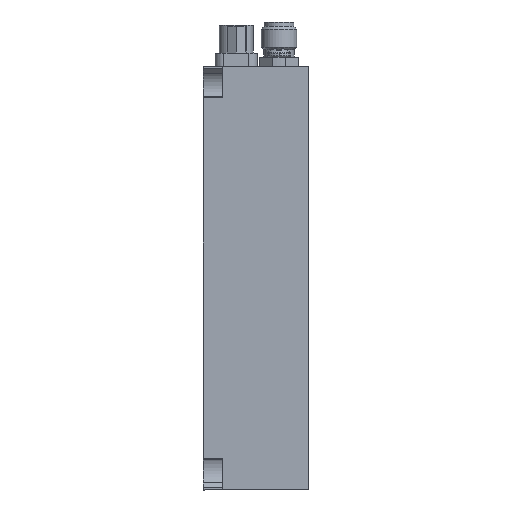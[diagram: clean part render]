
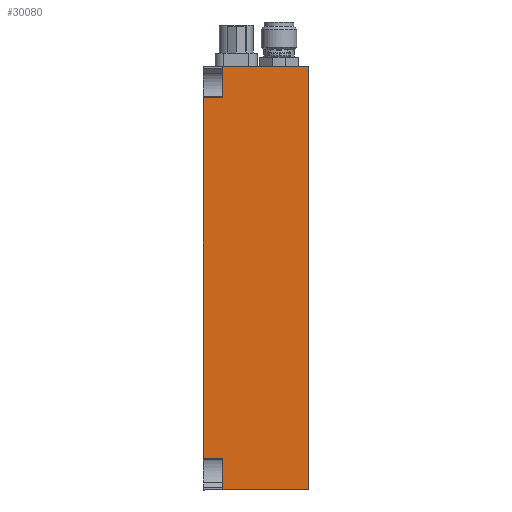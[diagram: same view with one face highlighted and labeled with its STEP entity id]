
A CAD part, left-side view. The second image highlights one B-rep face of the part: STEP entity #30080.
In plain terms, the highlighted planar face has unit normal (-1, 0, 0).
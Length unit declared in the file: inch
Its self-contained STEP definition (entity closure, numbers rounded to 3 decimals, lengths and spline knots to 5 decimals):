
#202 = EDGE_CURVE ( 'NONE', #1535, #6494, #10780, .T. ) ;
#804 = VECTOR ( 'NONE', #7736, 39.37008 ) ;
#1304 = ORIENTED_EDGE ( 'NONE', *, *, #23875, .F. ) ;
#1535 = VERTEX_POINT ( 'NONE', #8529 ) ;
#2229 = CARTESIAN_POINT ( 'NONE',  ( -0.21071, 2.15151, 0.70477 ) ) ;
#2556 = VERTEX_POINT ( 'NONE', #7744 ) ;
#2658 = ORIENTED_EDGE ( 'NONE', *, *, #13187, .F. ) ;
#2873 = FACE_OUTER_BOUND ( 'NONE', #6739, .T. ) ;
#3092 = DIRECTION ( 'NONE',  ( 0., 0., 1. ) ) ;
#3359 = VECTOR ( 'NONE', #31501, 39.37008 ) ;
#3605 = VECTOR ( 'NONE', #15071, 39.37008 ) ;
#3613 = EDGE_CURVE ( 'NONE', #28597, #12741, #20040, .T. ) ;
#4178 = ORIENTED_EDGE ( 'NONE', *, *, #3613, .F. ) ;
#4357 = EDGE_CURVE ( 'NONE', #6494, #32063, #6466, .T. ) ;
#5548 = VECTOR ( 'NONE', #10961, 39.37008 ) ;
#6466 = LINE ( 'NONE', #10559, #27288 ) ;
#6494 = VERTEX_POINT ( 'NONE', #7417 ) ;
#6739 = EDGE_LOOP ( 'NONE', ( #1304, #4178, #2658, #15048, #27519, #22695, #16498, #26550 ) ) ;
#7417 = CARTESIAN_POINT ( 'NONE',  ( -0.21071, 1.40151, 0.70477 ) ) ;
#7736 = DIRECTION ( 'NONE',  ( 0., 0., 1. ) ) ;
#7744 = CARTESIAN_POINT ( 'NONE',  ( -0.21071, 2.15151, 3.48176 ) ) ;
#7786 = CARTESIAN_POINT ( 'NONE',  ( -0.21071, 2.01151, 0.92779 ) ) ;
#8529 = CARTESIAN_POINT ( 'NONE',  ( -0.21071, 2.01151, 0.70477 ) ) ;
#8708 = DIRECTION ( 'NONE',  ( 0., 1., 0. ) ) ;
#9857 = DIRECTION ( 'NONE',  ( 0., -1., 0. ) ) ;
#10278 = EDGE_CURVE ( 'NONE', #26762, #32063, #31912, .T. ) ;
#10559 = CARTESIAN_POINT ( 'NONE',  ( -0.21071, 1.40151, 0.70477 ) ) ;
#10585 = DIRECTION ( 'NONE',  ( 0., 0., 1. ) ) ;
#10780 = LINE ( 'NONE', #31667, #3359 ) ;
#10961 = DIRECTION ( 'NONE',  ( 0., 0., 1. ) ) ;
#12741 = VERTEX_POINT ( 'NONE', #22828 ) ;
#13073 = CARTESIAN_POINT ( 'NONE',  ( -0.21071, 2.01151, 3.70477 ) ) ;
#13079 = CARTESIAN_POINT ( 'NONE',  ( -0.21071, 1.40151, 3.70477 ) ) ;
#13187 = EDGE_CURVE ( 'NONE', #1535, #28597, #28534, .T. ) ;
#13698 = CARTESIAN_POINT ( 'NONE',  ( -0.21071, 2.01151, 3.48176 ) ) ;
#13913 = CARTESIAN_POINT ( 'NONE',  ( -0.21071, 2.01151, 0.70477 ) ) ;
#15048 = ORIENTED_EDGE ( 'NONE', *, *, #202, .T. ) ;
#15069 = EDGE_CURVE ( 'NONE', #25329, #2556, #26119, .T. ) ;
#15071 = DIRECTION ( 'NONE',  ( 0., 1., 0. ) ) ;
#15653 = DIRECTION ( 'NONE',  ( 1., 0., 0. ) ) ;
#16498 = ORIENTED_EDGE ( 'NONE', *, *, #23688, .F. ) ;
#20040 = LINE ( 'NONE', #7786, #3605 ) ;
#20765 = CARTESIAN_POINT ( 'NONE',  ( -0.21071, 2.15151, 0.70477 ) ) ;
#20964 = AXIS2_PLACEMENT_3D ( 'NONE', #20765, #15653, #23109 ) ;
#21101 = PLANE ( 'NONE',  #20964 ) ;
#22441 = CARTESIAN_POINT ( 'NONE',  ( -0.21071, 2.15151, 3.70477 ) ) ;
#22695 = ORIENTED_EDGE ( 'NONE', *, *, #10278, .F. ) ;
#22828 = CARTESIAN_POINT ( 'NONE',  ( -0.21071, 2.15151, 0.92779 ) ) ;
#23109 = DIRECTION ( 'NONE',  ( 0., 0., -1. ) ) ;
#23688 = EDGE_CURVE ( 'NONE', #25329, #26762, #31303, .T. ) ;
#23875 = EDGE_CURVE ( 'NONE', #12741, #2556, #30442, .T. ) ;
#24540 = VECTOR ( 'NONE', #9857, 39.37008 ) ;
#25329 = VERTEX_POINT ( 'NONE', #13698 ) ;
#25967 = CARTESIAN_POINT ( 'NONE',  ( -0.21071, 2.01151, 3.48176 ) ) ;
#26119 = LINE ( 'NONE', #25967, #26703 ) ;
#26550 = ORIENTED_EDGE ( 'NONE', *, *, #15069, .T. ) ;
#26703 = VECTOR ( 'NONE', #8708, 39.37008 ) ;
#26762 = VERTEX_POINT ( 'NONE', #29899 ) ;
#27288 = VECTOR ( 'NONE', #3092, 39.37008 ) ;
#27519 = ORIENTED_EDGE ( 'NONE', *, *, #4357, .T. ) ;
#27774 = CARTESIAN_POINT ( 'NONE',  ( -0.21071, 2.01151, 0.92779 ) ) ;
#28534 = LINE ( 'NONE', #13913, #5548 ) ;
#28597 = VERTEX_POINT ( 'NONE', #27774 ) ;
#29899 = CARTESIAN_POINT ( 'NONE',  ( -0.21071, 2.01151, 3.70477 ) ) ;
#30080 = ADVANCED_FACE ( 'NONE', ( #2873 ), #21101, .F. ) ;
#30442 = LINE ( 'NONE', #2229, #804 ) ;
#31303 = LINE ( 'NONE', #13073, #32040 ) ;
#31501 = DIRECTION ( 'NONE',  ( 0., -1., 0. ) ) ;
#31667 = CARTESIAN_POINT ( 'NONE',  ( -0.21071, 2.15151, 0.70477 ) ) ;
#31912 = LINE ( 'NONE', #22441, #24540 ) ;
#32040 = VECTOR ( 'NONE', #10585, 39.37008 ) ;
#32063 = VERTEX_POINT ( 'NONE', #13079 ) ;
